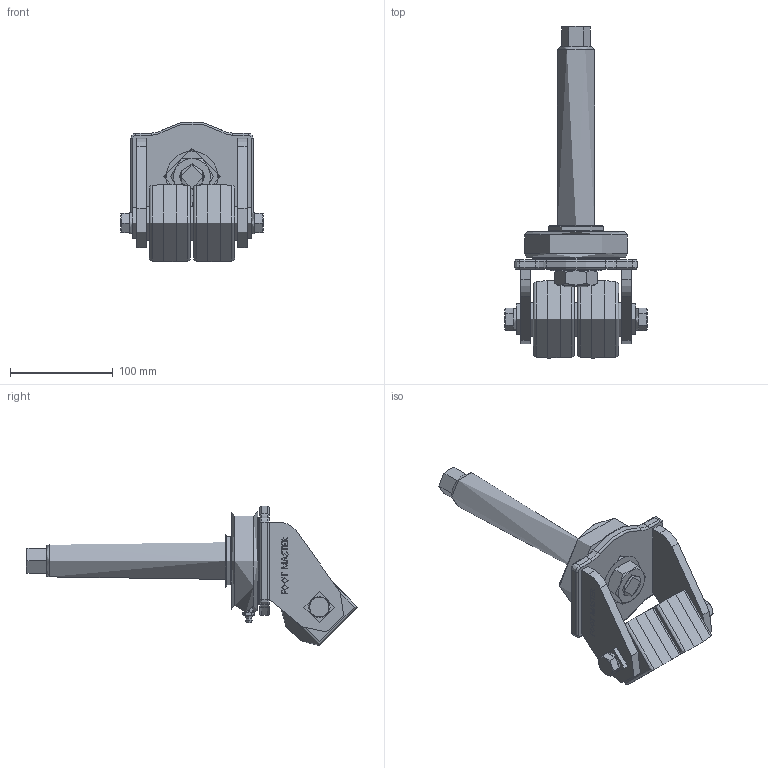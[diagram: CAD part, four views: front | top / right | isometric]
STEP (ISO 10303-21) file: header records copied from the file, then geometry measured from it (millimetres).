
FILE_DESCRIPTION(/* description */ (''),/* implementation_level */ '2;1');
FILE_NAME(/* name */ 'C:\Users\admin\Desktop\업무폴더\일자별 업무\2024\03월\03.08\홈페이지용 3D\3D\GXTT-75-ASS-HUD-PTR36x174L.stp',/* time_stamp */ '2024-03-13T17:32:38+09:00',/* author */ ('admin'),/* organization */ (''),/* preprocessor_version */ 'ST-DEVELOPER v18.1',/* originating_system */ 'Autodesk Inventor 2021',/* authorisation */ '');
FILE_SCHEMA (('CONFIG_CONTROL_DESIGN'));
Length unit declared in the file: millimetre
Products named in the file (1): GXTT-75-ASS-HUD-PTR36x174L_PART
Bounding box: 138 x 322.5 x 135.55 mm (x, y, z)
Topology: 1 solids, 9 shells, 500 faces, 1218 edges, 781 vertices
Faces by surface type: plane 293, bspline 90, cylinder 47, cone 42, torus 28
Full cylindrical faces by diameter (mm): 1 x1, 20.6 x2, 24 x1, 30 x2, 33 x3, 36 x2, 50 x1, 54 x2, 60 x1, 75 x2, 85 x1, 100 x1
Entity records: 15298 total; most frequent: CARTESIAN_POINT 4092, ORIENTED_EDGE 2454, DIRECTION 2035, EDGE_CURVE 1227, VERTEX_POINT 781, LINE 757, VECTOR 757, AXIS2_PLACEMENT_3D 639
